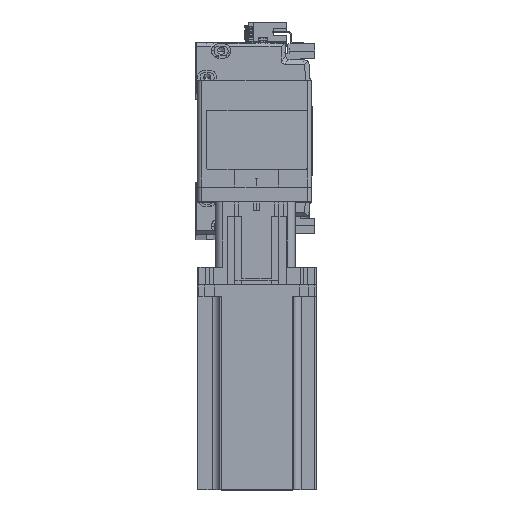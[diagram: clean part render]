
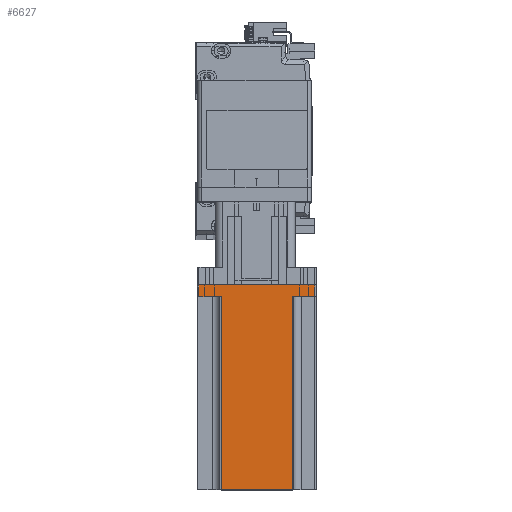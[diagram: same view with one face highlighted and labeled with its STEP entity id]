
A CAD part, top view. The second image highlights one B-rep face of the part: STEP entity #6627.
In plain terms, the highlighted planar face has unit normal (0, 0, 1) as drawn and (0, 1, 0) by its records, which use the part's own axes.
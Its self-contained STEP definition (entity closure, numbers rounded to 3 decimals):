
#595 = VECTOR ( 'NONE', #17718, 1000. ) ;
#2667 = LINE ( 'NONE', #12603, #26135 ) ;
#3149 = DIRECTION ( 'NONE',  ( 0., 0., -1. ) ) ;
#4446 = CARTESIAN_POINT ( 'NONE',  ( -39., 40., 0. ) ) ;
#6627 = ADVANCED_FACE ( 'NONE', ( #49638 ), #40510, .F. ) ;
#6754 = VECTOR ( 'NONE', #51959, 1000. ) ;
#8362 = EDGE_CURVE ( 'NONE', #52720, #19118, #33243, .T. ) ;
#9271 = CARTESIAN_POINT ( 'NONE',  ( -24., 40., 138.3 ) ) ;
#9665 = DIRECTION ( 'NONE',  ( 0., 0., -1. ) ) ;
#10213 = ORIENTED_EDGE ( 'NONE', *, *, #11408, .T. ) ;
#10549 = VECTOR ( 'NONE', #34140, 1000. ) ;
#11408 = EDGE_CURVE ( 'NONE', #40367, #43523, #12928, .T. ) ;
#11449 = ORIENTED_EDGE ( 'NONE', *, *, #52482, .T. ) ;
#12603 = CARTESIAN_POINT ( 'NONE',  ( 24., 40., 138.3 ) ) ;
#12928 = LINE ( 'NONE', #18471, #36329 ) ;
#13862 = DIRECTION ( 'NONE',  ( 0., 0., 1. ) ) ;
#14436 = VECTOR ( 'NONE', #9665, 1000. ) ;
#15364 = CARTESIAN_POINT ( 'NONE',  ( 24., 40., 8. ) ) ;
#17718 = DIRECTION ( 'NONE',  ( -1., 0., 0. ) ) ;
#18471 = CARTESIAN_POINT ( 'NONE',  ( 40., 40., 0. ) ) ;
#18939 = ORIENTED_EDGE ( 'NONE', *, *, #8362, .T. ) ;
#19118 = VERTEX_POINT ( 'NONE', #40057 ) ;
#19150 = LINE ( 'NONE', #27746, #28662 ) ;
#20521 = VERTEX_POINT ( 'NONE', #38008 ) ;
#21312 = EDGE_CURVE ( 'NONE', #20521, #34108, #2667, .T. ) ;
#22251 = DIRECTION ( 'NONE',  ( 1., 0., 0. ) ) ;
#22921 = CARTESIAN_POINT ( 'NONE',  ( -25., 40., 8. ) ) ;
#23075 = ORIENTED_EDGE ( 'NONE', *, *, #54150, .F. ) ;
#25191 = EDGE_CURVE ( 'NONE', #20521, #31400, #25597, .T. ) ;
#25597 = LINE ( 'NONE', #55073, #595 ) ;
#26135 = VECTOR ( 'NONE', #3149, 1000. ) ;
#27746 = CARTESIAN_POINT ( 'NONE',  ( -24., 40., 138.3 ) ) ;
#28662 = VECTOR ( 'NONE', #13862, 1000. ) ;
#28665 = AXIS2_PLACEMENT_3D ( 'NONE', #39212, #38859, #38669 ) ;
#31400 = VERTEX_POINT ( 'NONE', #9271 ) ;
#31673 = LINE ( 'NONE', #47269, #6754 ) ;
#32369 = DIRECTION ( 'NONE',  ( -1., 0., 0. ) ) ;
#33243 = LINE ( 'NONE', #22921, #56585 ) ;
#34108 = VERTEX_POINT ( 'NONE', #15364 ) ;
#34140 = DIRECTION ( 'NONE',  ( 0., 0., 1. ) ) ;
#36329 = VECTOR ( 'NONE', #32369, 1000. ) ;
#36875 = ORIENTED_EDGE ( 'NONE', *, *, #40132, .T. ) ;
#37167 = ORIENTED_EDGE ( 'NONE', *, *, #25191, .F. ) ;
#37692 = CARTESIAN_POINT ( 'NONE',  ( 39., 40., 138.3 ) ) ;
#38008 = CARTESIAN_POINT ( 'NONE',  ( 24., 40., 138.3 ) ) ;
#38669 = DIRECTION ( 'NONE',  ( 1., 0., 0. ) ) ;
#38859 = DIRECTION ( 'NONE',  ( 0., -1., 0. ) ) ;
#39212 = CARTESIAN_POINT ( 'NONE',  ( 40., 40., 138.3 ) ) ;
#40057 = CARTESIAN_POINT ( 'NONE',  ( -24., 40., 8. ) ) ;
#40132 = EDGE_CURVE ( 'NONE', #19118, #31400, #19150, .T. ) ;
#40367 = VERTEX_POINT ( 'NONE', #58313 ) ;
#40475 = EDGE_LOOP ( 'NONE', ( #18939, #36875, #37167, #52215, #23075, #11449, #10213, #51313 ) ) ;
#40510 = PLANE ( 'NONE',  #28665 ) ;
#43523 = VERTEX_POINT ( 'NONE', #4446 ) ;
#43658 = LINE ( 'NONE', #37692, #14436 ) ;
#44782 = EDGE_CURVE ( 'NONE', #43523, #52720, #60236, .T. ) ;
#44795 = CARTESIAN_POINT ( 'NONE',  ( 39., 40., 8. ) ) ;
#47269 = CARTESIAN_POINT ( 'NONE',  ( 25., 40., 8. ) ) ;
#49517 = CARTESIAN_POINT ( 'NONE',  ( -39., 40., 8. ) ) ;
#49638 = FACE_OUTER_BOUND ( 'NONE', #40475, .T. ) ;
#51313 = ORIENTED_EDGE ( 'NONE', *, *, #44782, .T. ) ;
#51959 = DIRECTION ( 'NONE',  ( -1., 0., 0. ) ) ;
#52215 = ORIENTED_EDGE ( 'NONE', *, *, #21312, .T. ) ;
#52482 = EDGE_CURVE ( 'NONE', #55821, #40367, #43658, .T. ) ;
#52720 = VERTEX_POINT ( 'NONE', #49517 ) ;
#54150 = EDGE_CURVE ( 'NONE', #55821, #34108, #31673, .T. ) ;
#55073 = CARTESIAN_POINT ( 'NONE',  ( 40., 40., 138.3 ) ) ;
#55821 = VERTEX_POINT ( 'NONE', #44795 ) ;
#56585 = VECTOR ( 'NONE', #22251, 1000. ) ;
#57407 = CARTESIAN_POINT ( 'NONE',  ( -39., 40., 138.3 ) ) ;
#58313 = CARTESIAN_POINT ( 'NONE',  ( 39., 40., 0. ) ) ;
#60236 = LINE ( 'NONE', #57407, #10549 ) ;
